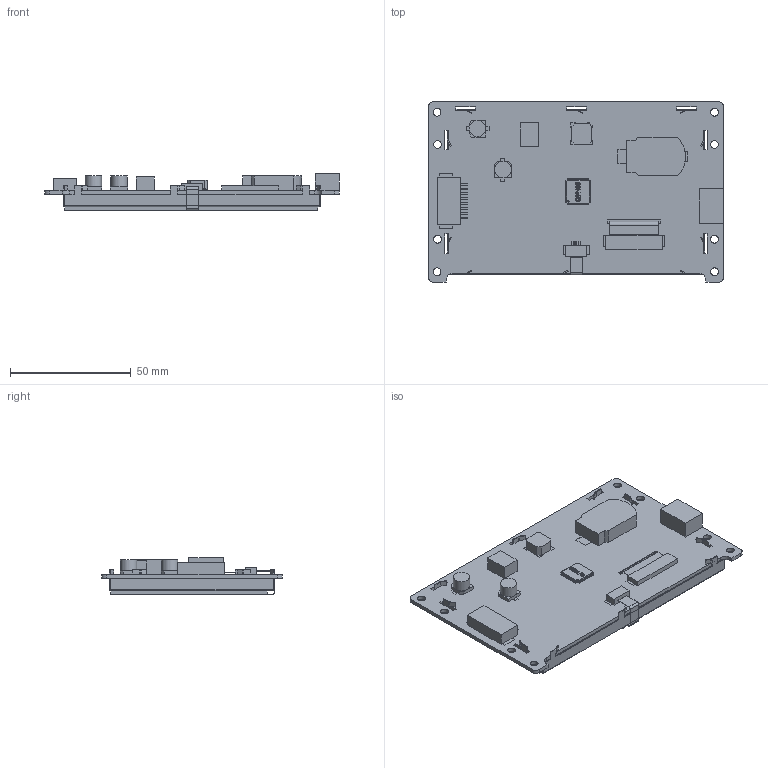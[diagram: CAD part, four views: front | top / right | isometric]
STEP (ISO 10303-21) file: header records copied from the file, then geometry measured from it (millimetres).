
FILE_DESCRIPTION(/* description */ (''),/* implementation_level */ '2;1');
FILE_NAME(/* name */ '',/* time_stamp */ '2023-07-26T18:36:53+08:00',/* author */ (''),/* organization */ (''),/* preprocessor_version */ 'ST-DEVELOPER v11',/* originating_system */ 'SIEMENS PLM Software NX 7.5',/* authorisation */ '');
FILE_SCHEMA (('AP203_CONFIGURATION_CONTROLLED_3D_DESIGN_OF_MECHANICAL_PARTS_AND_ASSEMBLIES_MIM_LF'));
Length unit declared in the file: millimetre
Products named in the file (1): 3D-SDWb043U74T_stp
Bounding box: 121.9 x 74.7 x 15.25 mm (x, y, z)
Volume: 30710.7 mm3; surface area: 46945.3 mm2
Topology: 20 solids, 20 shells, 1508 faces, 4305 edges, 2850 vertices
Faces by surface type: plane 1306, cylinder 195, bspline 7
Full cylindrical faces by diameter (mm): 3.2 x8, 6.776 x2
Entity records: 50886 total; most frequent: CARTESIAN_POINT 9088, ORIENTED_EDGE 8586, DIRECTION 7600, EDGE_CURVE 4293, LINE 3860, VECTOR 3860, VERTEX_POINT 2848, AXIS2_PLACEMENT_3D 1870
